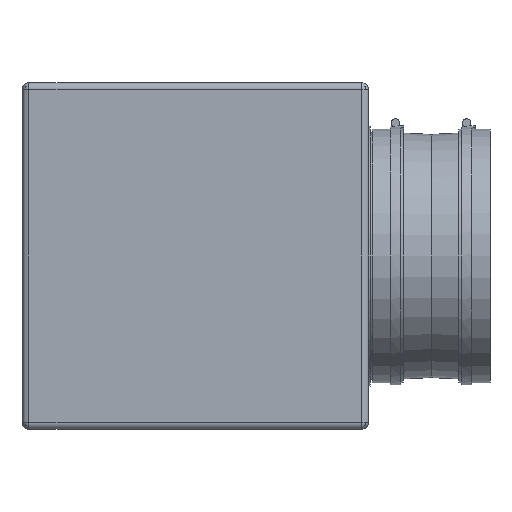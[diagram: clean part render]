
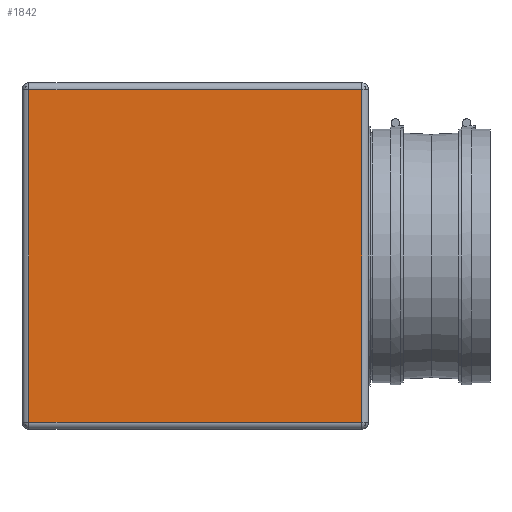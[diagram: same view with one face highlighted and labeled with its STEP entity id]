
A CAD part, left-side view. The second image highlights one B-rep face of the part: STEP entity #1842.
In plain terms, the highlighted planar face has unit normal (-1, 0, 0).
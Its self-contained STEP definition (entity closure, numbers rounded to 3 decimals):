
#161=PLANE('',#2056);
#258=FACE_OUTER_BOUND('',#427,.T.);
#427=EDGE_LOOP('',(#1455,#1456,#1457,#1458));
#577=LINE('',#2950,#671);
#580=LINE('',#2981,#674);
#582=LINE('',#2984,#676);
#595=LINE('',#3017,#689);
#671=VECTOR('',#2386,10.);
#674=VECTOR('',#2425,10.);
#676=VECTOR('',#2429,10.);
#689=VECTOR('',#2474,10.);
#919=VERTEX_POINT('',#2938);
#920=VERTEX_POINT('',#2942);
#923=VERTEX_POINT('',#2952);
#932=VERTEX_POINT('',#2977);
#1097=EDGE_CURVE('',#920,#919,#577,.T.);
#1112=EDGE_CURVE('',#923,#932,#580,.T.);
#1114=EDGE_CURVE('',#932,#920,#582,.T.);
#1133=EDGE_CURVE('',#919,#923,#595,.T.);
#1455=ORIENTED_EDGE('',*,*,#1112,.F.);
#1456=ORIENTED_EDGE('',*,*,#1133,.F.);
#1457=ORIENTED_EDGE('',*,*,#1097,.F.);
#1458=ORIENTED_EDGE('',*,*,#1114,.F.);
#1842=ADVANCED_FACE('',(#258),#161,.T.);
#2056=AXIS2_PLACEMENT_3D('',#3019,#2477,#2478);
#2386=DIRECTION('',(0.,1.,0.));
#2425=DIRECTION('',(0.,-1.,0.));
#2429=DIRECTION('',(0.,0.,-1.));
#2474=DIRECTION('',(0.,0.,1.));
#2477=DIRECTION('center_axis',(-1.,0.,0.));
#2478=DIRECTION('ref_axis',(0.,0.,1.));
#2938=CARTESIAN_POINT('',(-250.,240.,-240.));
#2942=CARTESIAN_POINT('',(-250.,-240.,-240.));
#2950=CARTESIAN_POINT('',(-250.,0.,-240.));
#2952=CARTESIAN_POINT('',(-250.,240.,240.));
#2977=CARTESIAN_POINT('',(-250.,-240.,240.));
#2981=CARTESIAN_POINT('',(-250.,0.,240.));
#2984=CARTESIAN_POINT('',(-250.,-240.,-125.));
#3017=CARTESIAN_POINT('',(-250.,240.,-125.));
#3019=CARTESIAN_POINT('Origin',(-250.,0.,-250.));
